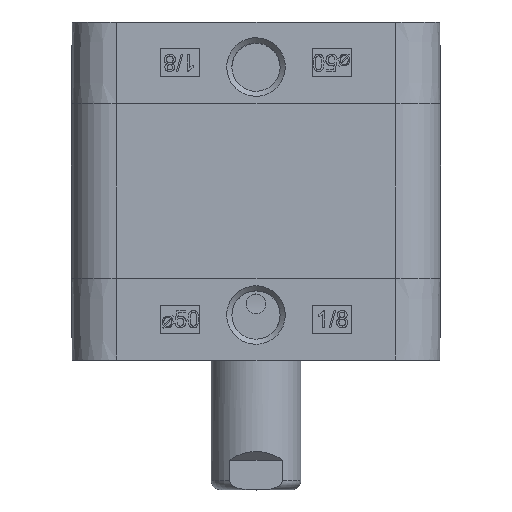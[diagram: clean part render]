
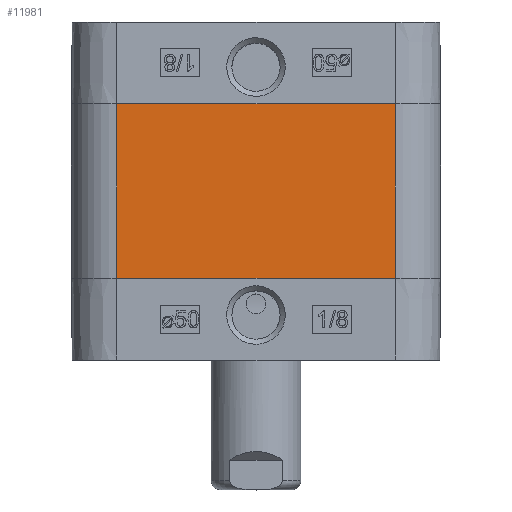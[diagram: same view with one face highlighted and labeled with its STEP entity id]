
A CAD part, top view. The second image highlights one B-rep face of the part: STEP entity #11981.
In plain terms, the highlighted planar face has unit normal (0, 0, 1) as drawn and (-1, 0, 0) by its records, which use the part's own axes.
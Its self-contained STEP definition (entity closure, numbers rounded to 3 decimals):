
#1230=ORIENTED_EDGE('',*,*,#4789,.T.);
#1231=ORIENTED_EDGE('',*,*,#4788,.F.);
#1232=ORIENTED_EDGE('',*,*,#4790,.T.);
#1233=ORIENTED_EDGE('',*,*,#4791,.T.);
#4788=EDGE_CURVE('',#6567,#6566,#7788,.T.);
#4789=EDGE_CURVE('',#6568,#6566,#7789,.T.);
#4790=EDGE_CURVE('',#6567,#6569,#7790,.T.);
#4791=EDGE_CURVE('',#6569,#6568,#7791,.T.);
#6566=VERTEX_POINT('',#21615);
#6567=VERTEX_POINT('',#21617);
#6568=VERTEX_POINT('',#21621);
#6569=VERTEX_POINT('',#21623);
#7788=LINE('',#21618,#8804);
#7789=LINE('',#21620,#8805);
#7790=LINE('',#21622,#8806);
#7791=LINE('',#21624,#8807);
#8804=VECTOR('',#18346,1000.);
#8805=VECTOR('',#18349,1000.);
#8806=VECTOR('',#18350,1000.);
#8807=VECTOR('',#18351,1000.);
#9813=EDGE_LOOP('',(#1230,#1231,#1232,#1233));
#10729=FACE_BOUND('',#9813,.T.);
#11642=PLANE('',#17197);
#11981=ADVANCED_FACE('',(#10729),#11642,.T.);
#17197=AXIS2_PLACEMENT_3D('',#21619,#18347,#18348);
#18346=DIRECTION('',(0.,0.,1.));
#18347=DIRECTION('',(-1.,0.,0.));
#18348=DIRECTION('',(0.,0.,1.));
#18349=DIRECTION('',(0.,1.,0.));
#18350=DIRECTION('',(0.,-1.,0.));
#18351=DIRECTION('',(0.,0.,1.));
#21615=CARTESIAN_POINT('',(-32.75,24.75,31.));
#21617=CARTESIAN_POINT('',(-32.75,24.75,0.));
#21618=CARTESIAN_POINT('',(-32.75,24.75,0.));
#21619=CARTESIAN_POINT('',(-32.75,-24.75,0.));
#21620=CARTESIAN_POINT('',(-32.75,-24.75,31.));
#21621=CARTESIAN_POINT('',(-32.75,-24.75,31.));
#21622=CARTESIAN_POINT('',(-32.75,24.75,0.));
#21623=CARTESIAN_POINT('',(-32.75,-24.75,0.));
#21624=CARTESIAN_POINT('',(-32.75,-24.75,0.));
